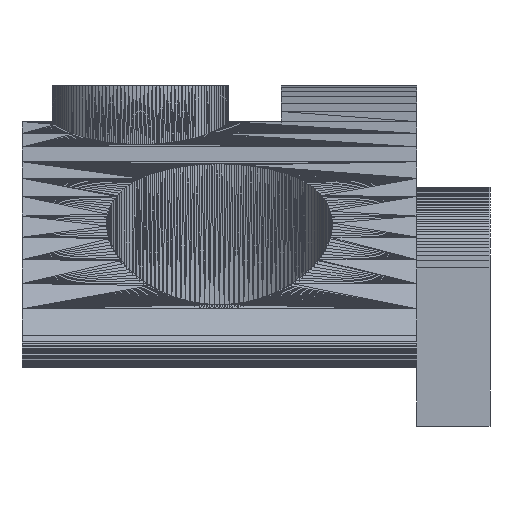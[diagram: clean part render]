
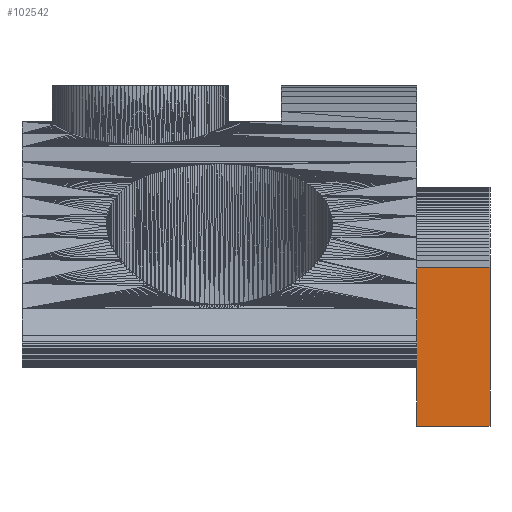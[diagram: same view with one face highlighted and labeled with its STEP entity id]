
A CAD part, left-side view. The second image highlights one B-rep face of the part: STEP entity #102542.
In plain terms, the highlighted planar face has unit normal (-1, 0, 0).
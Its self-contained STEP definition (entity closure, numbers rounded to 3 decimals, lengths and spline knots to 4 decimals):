
#33569 = PLANE('',#33570);
#33570 = AXIS2_PLACEMENT_3D('',#33571,#33572,#33573);
#33571 = CARTESIAN_POINT('',(-4.801,5.7522,
    3.1509));
#33572 = DIRECTION('',(0.,-1.,0.));
#33573 = DIRECTION('',(0.,-0.,-1.));
#33623 = PLANE('',#33624);
#33624 = AXIS2_PLACEMENT_3D('',#33625,#33626,#33627);
#33625 = CARTESIAN_POINT('',(-3.8753,4.4522,
    1.9069));
#33626 = DIRECTION('',(-0.,-1.,-0.));
#33627 = DIRECTION('',(0.,0.,-1.));
#55719 = VERTEX_POINT('',#55720);
#55720 = CARTESIAN_POINT('',(-11.3625,4.4522,
    -1.0378));
#55729 = PLANE('',#55730);
#55730 = AXIS2_PLACEMENT_3D('',#55731,#55732,#55733);
#55731 = CARTESIAN_POINT('',(-3.8742,4.4522,
    -1.0378));
#55732 = DIRECTION('',(0.,0.,-1.));
#55733 = DIRECTION('',(-1.,0.,-0.));
#55748 = EDGE_CURVE('',#55719,#55749,#55751,.T.);
#55749 = VERTEX_POINT('',#55750);
#55750 = CARTESIAN_POINT('',(-11.3625,5.7522,
    -1.0378));
#55751 = SURFACE_CURVE('',#55752,(#55756,#55763),.PCURVE_S1.);
#55752 = LINE('',#55753,#55754);
#55753 = CARTESIAN_POINT('',(-11.3625,4.4522,
    -1.0378));
#55754 = VECTOR('',#55755,1.);
#55755 = DIRECTION('',(0.,1.,0.));
#55756 = PCURVE('',#55729,#55757);
#55757 = DEFINITIONAL_REPRESENTATION('',(#55758),#55762);
#55758 = LINE('',#55759,#55760);
#55759 = CARTESIAN_POINT('',(7.488,0.));
#55760 = VECTOR('',#55761,1.);
#55761 = DIRECTION('',(0.,1.));
#55762 = ( GEOMETRIC_REPRESENTATION_CONTEXT(2) 
PARAMETRIC_REPRESENTATION_CONTEXT() REPRESENTATION_CONTEXT('2D SPACE',''
  ) );
#55763 = PCURVE('',#55764,#55769);
#55764 = PLANE('',#55765);
#55765 = AXIS2_PLACEMENT_3D('',#55766,#55767,#55768);
#55766 = CARTESIAN_POINT('',(-11.3625,4.4522,
    1.782));
#55767 = DIRECTION('',(-1.,0.,0.));
#55768 = DIRECTION('',(0.,0.,-1.));
#55769 = DEFINITIONAL_REPRESENTATION('',(#55770),#55774);
#55770 = LINE('',#55771,#55772);
#55771 = CARTESIAN_POINT('',(2.82,0.));
#55772 = VECTOR('',#55773,1.);
#55773 = DIRECTION('',(0.,-1.));
#55774 = ( GEOMETRIC_REPRESENTATION_CONTEXT(2) 
PARAMETRIC_REPRESENTATION_CONTEXT() REPRESENTATION_CONTEXT('2D SPACE',''
  ) );
#55792 = PLANE('',#55793);
#55793 = AXIS2_PLACEMENT_3D('',#55794,#55795,#55796);
#55794 = CARTESIAN_POINT('',(-3.8742,5.7522,
    -1.0378));
#55795 = DIRECTION('',(0.,1.,-0.));
#55796 = DIRECTION('',(0.,0.,1.));
#58847 = VERTEX_POINT('',#58848);
#58848 = CARTESIAN_POINT('',(-11.3625,5.7522,0.));
#99363 = EDGE_CURVE('',#58847,#99364,#99366,.T.);
#99364 = VERTEX_POINT('',#99365);
#99365 = CARTESIAN_POINT('',(-11.3625,5.7522,
    1.782));
#99366 = SURFACE_CURVE('',#99367,(#99371,#99378),.PCURVE_S1.);
#99367 = LINE('',#99368,#99369);
#99368 = CARTESIAN_POINT('',(-11.3625,5.7522,0.));
#99369 = VECTOR('',#99370,1.);
#99370 = DIRECTION('',(0.,0.,1.));
#99371 = PCURVE('',#33569,#99372);
#99372 = DEFINITIONAL_REPRESENTATION('',(#99373),#99377);
#99373 = LINE('',#99374,#99375);
#99374 = CARTESIAN_POINT('',(3.151,-6.562));
#99375 = VECTOR('',#99376,1.);
#99376 = DIRECTION('',(-1.,0.));
#99377 = ( GEOMETRIC_REPRESENTATION_CONTEXT(2) 
PARAMETRIC_REPRESENTATION_CONTEXT() REPRESENTATION_CONTEXT('2D SPACE',''
  ) );
#99378 = PCURVE('',#55764,#99379);
#99379 = DEFINITIONAL_REPRESENTATION('',(#99380),#99384);
#99380 = LINE('',#99381,#99382);
#99381 = CARTESIAN_POINT('',(1.782,-1.3));
#99382 = VECTOR('',#99383,1.);
#99383 = DIRECTION('',(-1.,-0.));
#99384 = ( GEOMETRIC_REPRESENTATION_CONTEXT(2) 
PARAMETRIC_REPRESENTATION_CONTEXT() REPRESENTATION_CONTEXT('2D SPACE',''
  ) );
#99402 = PLANE('',#99403);
#99403 = AXIS2_PLACEMENT_3D('',#99404,#99405,#99406);
#99404 = CARTESIAN_POINT('',(-11.3625,5.7522,
    1.782));
#99405 = DIRECTION('',(-1.,0.,0.008));
#99406 = DIRECTION('',(-0.008,0.,-1.));
#100586 = EDGE_CURVE('',#100587,#99364,#100589,.T.);
#100587 = VERTEX_POINT('',#100588);
#100588 = CARTESIAN_POINT('',(-11.3625,4.4522,
    1.782));
#100589 = SURFACE_CURVE('',#100590,(#100594,#100601),.PCURVE_S1.);
#100590 = LINE('',#100591,#100592);
#100591 = CARTESIAN_POINT('',(-11.3625,4.4522,
    1.782));
#100592 = VECTOR('',#100593,1.);
#100593 = DIRECTION('',(0.,1.,0.));
#100594 = PCURVE('',#99402,#100595);
#100595 = DEFINITIONAL_REPRESENTATION('',(#100596),#100600);
#100596 = LINE('',#100597,#100598);
#100597 = CARTESIAN_POINT('',(-0.,1.3));
#100598 = VECTOR('',#100599,1.);
#100599 = DIRECTION('',(0.,-1.));
#100600 = ( GEOMETRIC_REPRESENTATION_CONTEXT(2) 
PARAMETRIC_REPRESENTATION_CONTEXT() REPRESENTATION_CONTEXT('2D SPACE',''
  ) );
#100601 = PCURVE('',#55764,#100602);
#100602 = DEFINITIONAL_REPRESENTATION('',(#100603),#100607);
#100603 = LINE('',#100604,#100605);
#100604 = CARTESIAN_POINT('',(0.,-0.));
#100605 = VECTOR('',#100606,1.);
#100606 = DIRECTION('',(0.,-1.));
#100607 = ( GEOMETRIC_REPRESENTATION_CONTEXT(2) 
PARAMETRIC_REPRESENTATION_CONTEXT() REPRESENTATION_CONTEXT('2D SPACE',''
  ) );
#102542 = ADVANCED_FACE('',(#102543),#55764,.T.);
#102543 = FACE_BOUND('',#102544,.T.);
#102544 = EDGE_LOOP('',(#102545,#102546,#102547,#102568,#102569));
#102545 = ORIENTED_EDGE('',*,*,#100586,.T.);
#102546 = ORIENTED_EDGE('',*,*,#99363,.F.);
#102547 = ORIENTED_EDGE('',*,*,#102548,.F.);
#102548 = EDGE_CURVE('',#55749,#58847,#102549,.T.);
#102549 = SURFACE_CURVE('',#102550,(#102554,#102561),.PCURVE_S1.);
#102550 = LINE('',#102551,#102552);
#102551 = CARTESIAN_POINT('',(-11.3625,5.7522,
    -1.0378));
#102552 = VECTOR('',#102553,1.);
#102553 = DIRECTION('',(0.,0.,1.));
#102554 = PCURVE('',#55764,#102555);
#102555 = DEFINITIONAL_REPRESENTATION('',(#102556),#102560);
#102556 = LINE('',#102557,#102558);
#102557 = CARTESIAN_POINT('',(2.82,-1.3));
#102558 = VECTOR('',#102559,1.);
#102559 = DIRECTION('',(-1.,-0.));
#102560 = ( GEOMETRIC_REPRESENTATION_CONTEXT(2) 
PARAMETRIC_REPRESENTATION_CONTEXT() REPRESENTATION_CONTEXT('2D SPACE',''
  ) );
#102561 = PCURVE('',#55792,#102562);
#102562 = DEFINITIONAL_REPRESENTATION('',(#102563),#102567);
#102563 = LINE('',#102564,#102565);
#102564 = CARTESIAN_POINT('',(0.,-7.488));
#102565 = VECTOR('',#102566,1.);
#102566 = DIRECTION('',(1.,0.));
#102567 = ( GEOMETRIC_REPRESENTATION_CONTEXT(2) 
PARAMETRIC_REPRESENTATION_CONTEXT() REPRESENTATION_CONTEXT('2D SPACE',''
  ) );
#102568 = ORIENTED_EDGE('',*,*,#55748,.F.);
#102569 = ORIENTED_EDGE('',*,*,#102570,.T.);
#102570 = EDGE_CURVE('',#55719,#100587,#102571,.T.);
#102571 = SURFACE_CURVE('',#102572,(#102576,#102583),.PCURVE_S1.);
#102572 = LINE('',#102573,#102574);
#102573 = CARTESIAN_POINT('',(-11.3625,4.4522,
    -1.0378));
#102574 = VECTOR('',#102575,1.);
#102575 = DIRECTION('',(0.,0.,1.));
#102576 = PCURVE('',#55764,#102577);
#102577 = DEFINITIONAL_REPRESENTATION('',(#102578),#102582);
#102578 = LINE('',#102579,#102580);
#102579 = CARTESIAN_POINT('',(2.82,0.));
#102580 = VECTOR('',#102581,1.);
#102581 = DIRECTION('',(-1.,-0.));
#102582 = ( GEOMETRIC_REPRESENTATION_CONTEXT(2) 
PARAMETRIC_REPRESENTATION_CONTEXT() REPRESENTATION_CONTEXT('2D SPACE',''
  ) );
#102583 = PCURVE('',#33623,#102584);
#102584 = DEFINITIONAL_REPRESENTATION('',(#102585),#102589);
#102585 = LINE('',#102586,#102587);
#102586 = CARTESIAN_POINT('',(2.945,-7.487));
#102587 = VECTOR('',#102588,1.);
#102588 = DIRECTION('',(-1.,0.));
#102589 = ( GEOMETRIC_REPRESENTATION_CONTEXT(2) 
PARAMETRIC_REPRESENTATION_CONTEXT() REPRESENTATION_CONTEXT('2D SPACE',''
  ) );
